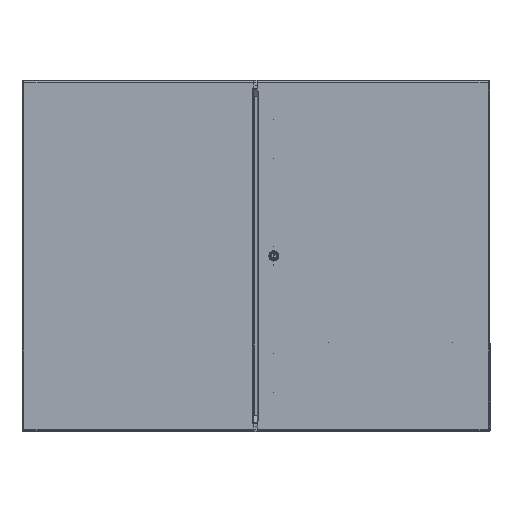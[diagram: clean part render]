
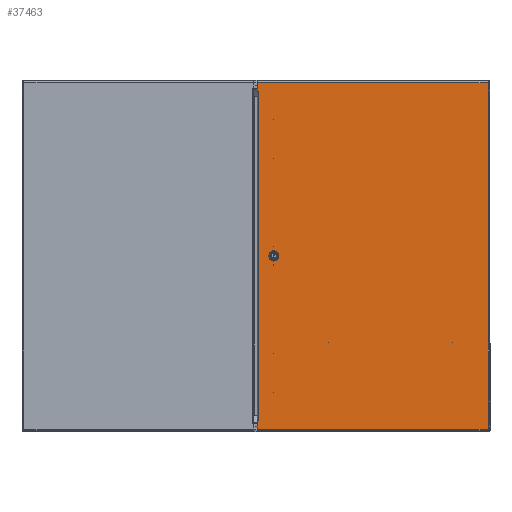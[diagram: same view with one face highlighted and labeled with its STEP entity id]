
A CAD part, top view. The second image highlights one B-rep face of the part: STEP entity #37463.
In plain terms, the highlighted planar face has unit normal (0, 0, 1).
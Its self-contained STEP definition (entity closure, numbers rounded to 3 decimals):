
#12853 = VECTOR ( 'NONE', #39894, 39.37 ) ;
#12855 = LINE ( 'NONE', #39892, #12853 ) ;
#12862 = CIRCLE ( 'NONE', #19799, 0.005 ) ;
#12864 = LINE ( 'NONE', #39869, #12870 ) ;
#12866 = CIRCLE ( 'NONE', #19806, 0.005 ) ;
#12870 = VECTOR ( 'NONE', #39886, 39.37 ) ;
#12874 = VECTOR ( 'NONE', #39863, 39.37 ) ;
#12881 = VECTOR ( 'NONE', #39858, 39.37 ) ;
#12883 = CIRCLE ( 'NONE', #19791, 0.445 ) ;
#12885 = LINE ( 'NONE', #39826, #12881 ) ;
#12891 = VECTOR ( 'NONE', #39842, 39.37 ) ;
#12893 = LINE ( 'NONE', #39841, #12891 ) ;
#12895 = VECTOR ( 'NONE', #39838, 39.37 ) ;
#12898 = LINE ( 'NONE', #39837, #12895 ) ;
#12900 = LINE ( 'NONE', #39855, #12874 ) ;
#12902 = VECTOR ( 'NONE', #39834, 39.37 ) ;
#12911 = VECTOR ( 'NONE', #39821, 39.37 ) ;
#12913 = LINE ( 'NONE', #39819, #12911 ) ;
#12915 = VECTOR ( 'NONE', #39816, 39.37 ) ;
#12918 = LINE ( 'NONE', #39813, #12915 ) ;
#12920 = LINE ( 'NONE', #39852, #12924 ) ;
#12924 = VECTOR ( 'NONE', #39854, 39.37 ) ;
#12929 = LINE ( 'NONE', #39809, #12902 ) ;
#12940 = LINE ( 'NONE', #39793, #12944 ) ;
#12944 = VECTOR ( 'NONE', #39794, 39.37 ) ;
#19645 = AXIS2_PLACEMENT_3D ( 'NONE', #36600, #36605, #36607 ) ;
#19791 = AXIS2_PLACEMENT_3D ( 'NONE', #39831, #39847, #39849 ) ;
#19799 = AXIS2_PLACEMENT_3D ( 'NONE', #39875, #39879, #39881 ) ;
#19806 = AXIS2_PLACEMENT_3D ( 'NONE', #39860, #39871, #39873 ) ;
#20027 = AXIS2_PLACEMENT_3D ( 'NONE', #56133, #56138, #56139 ) ;
#21692 = CARTESIAN_POINT ( 'NONE',  ( -10.661, 0., 0.072 ) ) ;
#21693 = CARTESIAN_POINT ( 'NONE',  ( -9.771, 0., 0.072 ) ) ;
#21812 = CARTESIAN_POINT ( 'NONE',  ( 11.764, 17.755, 0.072 ) ) ;
#21813 = CARTESIAN_POINT ( 'NONE',  ( 11.764, -17.755, 0.072 ) ) ;
#21881 = CARTESIAN_POINT ( 'NONE',  ( 11.764, 17.755, 0.072 ) ) ;
#21883 = CARTESIAN_POINT ( 'NONE',  ( 11.759, -17.76, 0.072 ) ) ;
#21885 = CARTESIAN_POINT ( 'NONE',  ( 11.759, -17.76, 0.072 ) ) ;
#21886 = CARTESIAN_POINT ( 'NONE',  ( -11.916, 17.76, 0.072 ) ) ;
#21887 = CARTESIAN_POINT ( 'NONE',  ( 11.759, 17.76, 0.072 ) ) ;
#21888 = CARTESIAN_POINT ( 'NONE',  ( -11.916, 16.912, 0.072 ) ) ;
#21889 = CARTESIAN_POINT ( 'NONE',  ( -11.764, 16.912, 0.072 ) ) ;
#21890 = CARTESIAN_POINT ( 'NONE',  ( -11.764, -16.912, 0.072 ) ) ;
#21891 = CARTESIAN_POINT ( 'NONE',  ( -11.916, -16.912, 0.072 ) ) ;
#21892 = CARTESIAN_POINT ( 'NONE',  ( -11.916, -17.76, 0.072 ) ) ;
#21894 = CARTESIAN_POINT ( 'NONE',  ( 11.764, -17.755, 0.072 ) ) ;
#21896 = CARTESIAN_POINT ( 'NONE',  ( 11.759, 17.76, 0.072 ) ) ;
#32692 = VERTEX_POINT ( 'NONE', #21692 ) ;
#32694 = VERTEX_POINT ( 'NONE', #21693 ) ;
#32888 = VERTEX_POINT ( 'NONE', #21812 ) ;
#32889 = VERTEX_POINT ( 'NONE', #21813 ) ;
#32968 = VERTEX_POINT ( 'NONE', #21881 ) ;
#32970 = VERTEX_POINT ( 'NONE', #21883 ) ;
#32972 = VERTEX_POINT ( 'NONE', #21885 ) ;
#32973 = VERTEX_POINT ( 'NONE', #21886 ) ;
#32974 = VERTEX_POINT ( 'NONE', #21887 ) ;
#32975 = VERTEX_POINT ( 'NONE', #21888 ) ;
#32976 = VERTEX_POINT ( 'NONE', #21889 ) ;
#32977 = VERTEX_POINT ( 'NONE', #21890 ) ;
#32978 = VERTEX_POINT ( 'NONE', #21891 ) ;
#32979 = VERTEX_POINT ( 'NONE', #21892 ) ;
#32981 = VERTEX_POINT ( 'NONE', #21894 ) ;
#32983 = VERTEX_POINT ( 'NONE', #21896 ) ;
#35666 = EDGE_CURVE ( 'NONE', #32692, #32694, #60578, .T. ) ;
#36277 = EDGE_CURVE ( 'NONE', #32889, #32888, #60858, .T. ) ;
#36586 = EDGE_CURVE ( 'NONE', #32975, #32973, #12940, .T. ) ;
#36595 = EDGE_CURVE ( 'NONE', #32968, #32888, #12918, .T. ) ;
#36599 = EDGE_CURVE ( 'NONE', #32975, #32976, #12913, .T. ) ;
#36600 = CARTESIAN_POINT ( 'NONE',  ( -10.216, 0., 0.072 ) ) ;
#36605 = DIRECTION ( 'NONE',  ( 0., 0., 1. ) ) ;
#36607 = DIRECTION ( 'NONE',  ( 1., 0., 0. ) ) ;
#36608 = EDGE_CURVE ( 'NONE', #32972, #32970, #12929, .T. ) ;
#36611 = EDGE_CURVE ( 'NONE', #32977, #32978, #12898, .T. ) ;
#36614 = EDGE_CURVE ( 'NONE', #32976, #32977, #12893, .T. ) ;
#36616 = EDGE_CURVE ( 'NONE', #32694, #32692, #12883, .T. ) ;
#36618 = EDGE_CURVE ( 'NONE', #32973, #32974, #12920, .T. ) ;
#36622 = EDGE_CURVE ( 'NONE', #32979, #32978, #12885, .T. ) ;
#36625 = EDGE_CURVE ( 'NONE', #32979, #32970, #12900, .T. ) ;
#36631 = EDGE_CURVE ( 'NONE', #32981, #32972, #12866, .T. ) ;
#36634 = EDGE_CURVE ( 'NONE', #32983, #32968, #12862, .T. ) ;
#36637 = EDGE_CURVE ( 'NONE', #32889, #32981, #12864, .T. ) ;
#36643 = EDGE_CURVE ( 'NONE', #32974, #32983, #12855, .T. ) ;
#37463 = ADVANCED_FACE ( 'NONE', ( #70048, #70038 ), #56132, .T. ) ;
#39283 = CARTESIAN_POINT ( 'NONE',  ( 11.764, -17.755, 0.072 ) ) ;
#39299 = DIRECTION ( 'NONE',  ( 0., 1., 0. ) ) ;
#39793 = CARTESIAN_POINT ( 'NONE',  ( -11.916, -17.912, 0.072 ) ) ;
#39794 = DIRECTION ( 'NONE',  ( 0., 1., 0. ) ) ;
#39809 = CARTESIAN_POINT ( 'NONE',  ( 11.759, -17.76, 0.072 ) ) ;
#39813 = CARTESIAN_POINT ( 'NONE',  ( 11.764, 17.755, 0.072 ) ) ;
#39816 = DIRECTION ( 'NONE',  ( 0., -1., 0. ) ) ;
#39819 = CARTESIAN_POINT ( 'NONE',  ( 11.759, 16.912, 0.072 ) ) ;
#39821 = DIRECTION ( 'NONE',  ( 1., 0., 0. ) ) ;
#39826 = CARTESIAN_POINT ( 'NONE',  ( -11.916, -17.912, 0.072 ) ) ;
#39831 = CARTESIAN_POINT ( 'NONE',  ( -10.216, 0., 0.072 ) ) ;
#39834 = DIRECTION ( 'NONE',  ( -1., 0., 0. ) ) ;
#39837 = CARTESIAN_POINT ( 'NONE',  ( 11.759, -16.912, 0.072 ) ) ;
#39838 = DIRECTION ( 'NONE',  ( -1., 0., 0. ) ) ;
#39841 = CARTESIAN_POINT ( 'NONE',  ( -11.764, 16.912, 0.072 ) ) ;
#39842 = DIRECTION ( 'NONE',  ( 0., -1., 0. ) ) ;
#39847 = DIRECTION ( 'NONE',  ( 0., 0., 1. ) ) ;
#39849 = DIRECTION ( 'NONE',  ( 1., 0., 0. ) ) ;
#39852 = CARTESIAN_POINT ( 'NONE',  ( 11.759, 17.76, 0.072 ) ) ;
#39854 = DIRECTION ( 'NONE',  ( 1., 0., 0. ) ) ;
#39855 = CARTESIAN_POINT ( 'NONE',  ( -11.916, -17.76, 0.072 ) ) ;
#39858 = DIRECTION ( 'NONE',  ( 0., 1., 0. ) ) ;
#39860 = CARTESIAN_POINT ( 'NONE',  ( 11.759, -17.755, 0.072 ) ) ;
#39863 = DIRECTION ( 'NONE',  ( 1., 0., 0. ) ) ;
#39869 = CARTESIAN_POINT ( 'NONE',  ( 11.764, 17.755, 0.072 ) ) ;
#39871 = DIRECTION ( 'NONE',  ( 0., 0., -1. ) ) ;
#39873 = DIRECTION ( 'NONE',  ( -1., 0., 0. ) ) ;
#39875 = CARTESIAN_POINT ( 'NONE',  ( 11.759, 17.755, 0.072 ) ) ;
#39879 = DIRECTION ( 'NONE',  ( 0., 0., -1. ) ) ;
#39881 = DIRECTION ( 'NONE',  ( -1., 0., 0. ) ) ;
#39886 = DIRECTION ( 'NONE',  ( 0., -1., 0. ) ) ;
#39892 = CARTESIAN_POINT ( 'NONE',  ( 11.759, 17.76, 0.072 ) ) ;
#39894 = DIRECTION ( 'NONE',  ( 1., 0., 0. ) ) ;
#56132 = PLANE ( 'NONE',  #20027 ) ;
#56133 = CARTESIAN_POINT ( 'NONE',  ( 11.759, 17.755, 0.072 ) ) ;
#56138 = DIRECTION ( 'NONE',  ( 0., 0., 1. ) ) ;
#56139 = DIRECTION ( 'NONE',  ( 1., 0., 0. ) ) ;
#60578 = CIRCLE ( 'NONE', #19645, 0.445 ) ;
#60858 = LINE ( 'NONE', #39283, #60877 ) ;
#60877 = VECTOR ( 'NONE', #39299, 39.37 ) ;
#63439 = EDGE_LOOP ( 'NONE', ( #65173, #65106, #65128, #65133, #65125, #65097, #65124, #65110, #64976, #64919, #64913, #64903, #64918, #64908 ) ) ;
#63448 = EDGE_LOOP ( 'NONE', ( #64968, #64986 ) ) ;
#64903 = ORIENTED_EDGE ( 'NONE', *, *, #36595, .F. ) ;
#64908 = ORIENTED_EDGE ( 'NONE', *, *, #36643, .F. ) ;
#64913 = ORIENTED_EDGE ( 'NONE', *, *, #36277, .T. ) ;
#64918 = ORIENTED_EDGE ( 'NONE', *, *, #36634, .F. ) ;
#64919 = ORIENTED_EDGE ( 'NONE', *, *, #36637, .F. ) ;
#64968 = ORIENTED_EDGE ( 'NONE', *, *, #36616, .F. ) ;
#64976 = ORIENTED_EDGE ( 'NONE', *, *, #36631, .F. ) ;
#64986 = ORIENTED_EDGE ( 'NONE', *, *, #35666, .F. ) ;
#65097 = ORIENTED_EDGE ( 'NONE', *, *, #36622, .F. ) ;
#65106 = ORIENTED_EDGE ( 'NONE', *, *, #36586, .F. ) ;
#65110 = ORIENTED_EDGE ( 'NONE', *, *, #36608, .F. ) ;
#65124 = ORIENTED_EDGE ( 'NONE', *, *, #36625, .T. ) ;
#65125 = ORIENTED_EDGE ( 'NONE', *, *, #36611, .T. ) ;
#65128 = ORIENTED_EDGE ( 'NONE', *, *, #36599, .T. ) ;
#65133 = ORIENTED_EDGE ( 'NONE', *, *, #36614, .T. ) ;
#65173 = ORIENTED_EDGE ( 'NONE', *, *, #36618, .F. ) ;
#70038 = FACE_OUTER_BOUND ( 'NONE', #63439, .T. ) ;
#70048 = FACE_BOUND ( 'NONE', #63448, .T. ) ;
